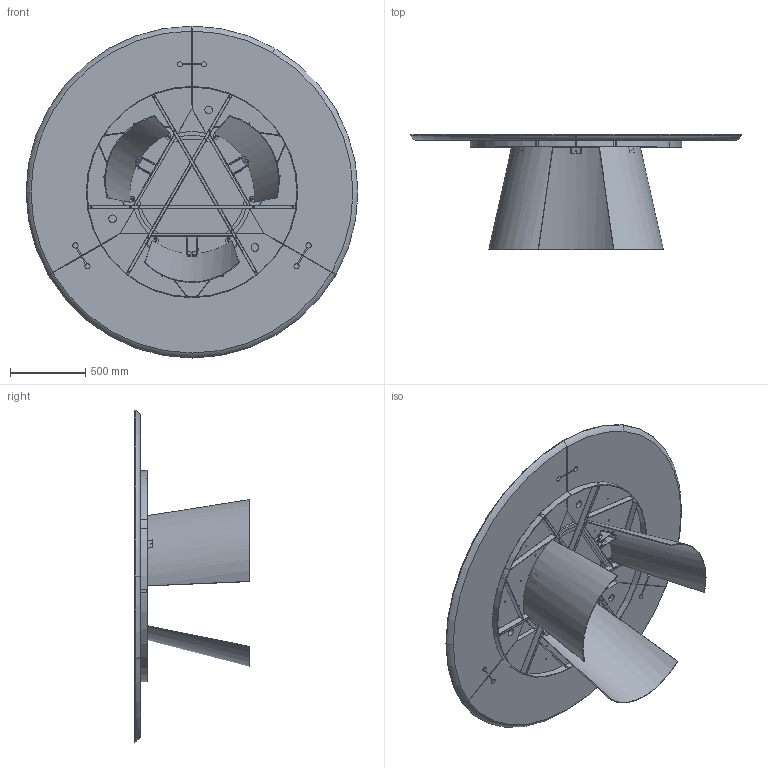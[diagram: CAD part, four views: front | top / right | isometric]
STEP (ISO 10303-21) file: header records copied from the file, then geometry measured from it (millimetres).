
FILE_DESCRIPTION (( 'STEP AP203' ), '1' );
FILE_NAME ('DN18L_Dorian_d.220_LegnoCeramica.STEP', '2024-07-31T12:57:13', ( '' ), ( '' ), 'SwSTEP 2.0', 'SolidWorks 2022', '' );
FILE_SCHEMA (( 'CONFIG_CONTROL_DESIGN' ));
Length unit declared in the file: millimetre
Products named in the file (18): TTAV11GR_04-02-ANCORAGGIO DORIAN; DNB300000_02-02-RISCONTRO STANGONE CENTRALE; W17_03-00-PIANO + LAMA; K90X-00-SOLO CERAMICA; spina_SPINA Ø10X40; SDNB300000-02-GAMBA X TRASP; W17_01-00-SPICCHIO PER PIANO LEGNO D.220cm; CUSCINETTO SFERE Ø800; TTAV11GR_02-02-RING; TTAV11GR_03-02-PIASTRA; TTAV11GR05-01-STAFFA FISSAGGIO DORIAN LEG_CER 180_220 GREZZO; DNB300000_01-02-GAMBA DORIAN; LAM000001-00-LAME METALLO X TAVOLI LEG CER D220 GREZZO; TTAV11GR-02-TELAIO X TAVOLO LEG-CER D220; DN18L_Dorian_d.220_LegnoCeramica; DNB300000_03-02-PIASTRINA; Vite Legno 3,0xXX_S4.5x40; TTAV11GR_01-02-TRAVERSO
Assembly tree (37 placements, depth 3):
  DN18L_Dorian_d.220_LegnoCeramica
    TTAV11GR-02-TELAIO X TAVOLO LEG-CER D220
      TTAV11GR_01-02-TRAVERSO  x3
      TTAV11GR_02-02-RING
      TTAV11GR_03-02-PIASTRA  x3
      TTAV11GR_04-02-ANCORAGGIO DORIAN  x6
    W17_03-00-PIANO + LAMA  x3
      W17_01-00-SPICCHIO PER PIANO LEGNO D.220cm
      LAM000001-00-LAME METALLO X TAVOLI LEG CER D220 GREZZO
      Vite Legno 3,0xXX_S4.5x40
      spina_SPINA Ø10X40
    CUSCINETTO SFERE Ø800
    K90X-00-SOLO CERAMICA
    SDNB300000-02-GAMBA X TRASP  x3
      DNB300000_01-02-GAMBA DORIAN
      DNB300000_02-02-RISCONTRO STANGONE CENTRALE
      DNB300000_03-02-PIASTRINA
    TTAV11GR05-01-STAFFA FISSAGGIO DORIAN LEG_CER 180_220 GREZZO  x3
Bounding box: 2199.86 x 762.25 x 2200.18 mm (x, y, z)
Volume: 139479053.9 mm3; surface area: 15746301.3 mm2
Topology: 55 solids, 55 shells, 2176 faces, 5855 edges, 3705 vertices
Faces by surface type: cylinder 872, plane 730, bspline 246, cone 190, torus 138
Full cylindrical faces by diameter (mm): 1390 x1, 1400 x1
Entity records: 28110 total; most frequent: CARTESIAN_POINT 11552, ORIENTED_EDGE 2976, DIRECTION 2879, EDGE_CURVE 1488, AXIS2_PLACEMENT_3D 1054, VERTEX_POINT 949, VECTOR 771, LINE 771
